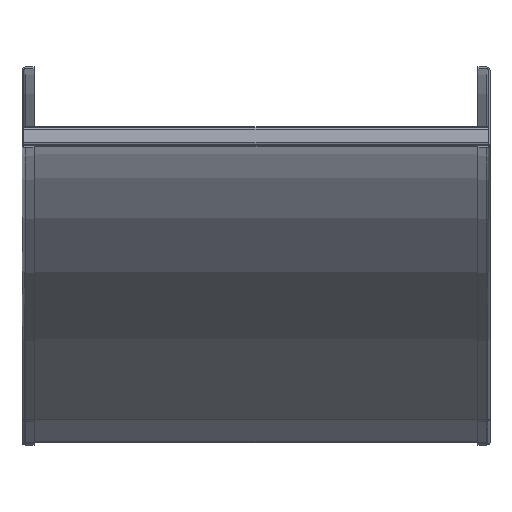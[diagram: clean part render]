
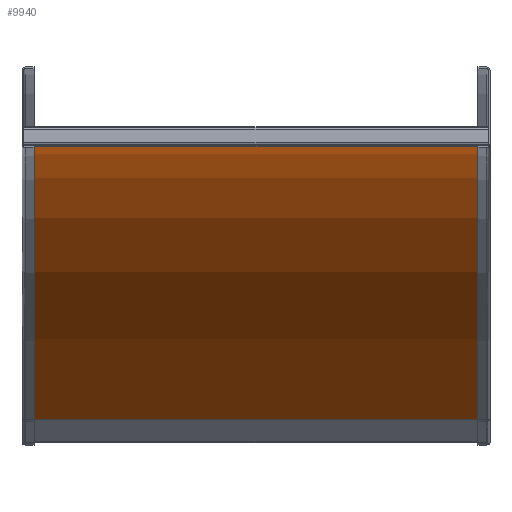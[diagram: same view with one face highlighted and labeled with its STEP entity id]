
A CAD part, top view. The second image highlights one B-rep face of the part: STEP entity #9940.
In plain terms, the highlighted cylindrical face has radius 1221.23 mm (diameter 2442.46 mm), a partial arc.
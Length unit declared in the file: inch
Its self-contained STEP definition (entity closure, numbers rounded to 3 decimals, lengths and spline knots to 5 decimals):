
#9774=DIRECTION('',(-1.,0.,0.));
#9775=VECTOR('',#9774,23.875);
#9776=CARTESIAN_POINT('',(11.9375,0.,0.));
#9777=LINE('',#9776,#9775);
#9778=CARTESIAN_POINT('',(11.9375,48.08,0.));
#9779=DIRECTION('',(-1.,0.,0.));
#9780=DIRECTION('',(0.,-1.,0.));
#9781=AXIS2_PLACEMENT_3D('',#9778,#9779,#9780);
#9804=CARTESIAN_POINT('',(-11.9375,48.08,0.));
#9805=DIRECTION('',(-1.,0.,0.));
#9806=DIRECTION('',(0.,-1.,0.));
#9807=AXIS2_PLACEMENT_3D('',#9804,#9805,#9806);
#9830=DIRECTION('',(-1.,0.,0.));
#9831=VECTOR('',#9830,23.875);
#9832=CARTESIAN_POINT('',(11.9375,14.08231,33.99769));
#9833=LINE('',#9832,#9831);
#9878=CARTESIAN_POINT('',(11.9375,0.,0.));
#9880=VERTEX_POINT('',#9878);
#9884=CARTESIAN_POINT('',(-11.9375,0.,0.));
#9885=VERTEX_POINT('',#9884);
#9894=CARTESIAN_POINT('',(11.9375,14.08231,33.99769));
#9895=VERTEX_POINT('',#9894);
#9898=CARTESIAN_POINT('',(-11.9375,14.08231,33.99769));
#9899=VERTEX_POINT('',#9898);
#9926=CARTESIAN_POINT('',(11.9375,48.08,0.));
#9927=DIRECTION('',(-1.,0.,0.));
#9928=DIRECTION('',(0.,0.,1.));
#9929=AXIS2_PLACEMENT_3D('',#9926,#9927,#9928);
#9930=CYLINDRICAL_SURFACE('',#9929,48.08);
#9932=ORIENTED_EDGE('',*,*,#9931,.T.);
#9934=ORIENTED_EDGE('',*,*,#9933,.T.);
#9936=ORIENTED_EDGE('',*,*,#9935,.F.);
#9937=ORIENTED_EDGE('',*,*,#9915,.F.);
#9938=EDGE_LOOP('',(#9932,#9934,#9936,#9937));
#9939=FACE_OUTER_BOUND('',#9938,.F.);
#9940=ADVANCED_FACE('',(#9939),#9930,.F.);
#9782=CIRCLE('',#9781,48.08);
#9808=CIRCLE('',#9807,48.08);
#9915=EDGE_CURVE('',#9880,#9885,#9777,.T.);
#9931=EDGE_CURVE('',#9880,#9895,#9782,.T.);
#9933=EDGE_CURVE('',#9895,#9899,#9833,.T.);
#9935=EDGE_CURVE('',#9885,#9899,#9808,.T.);
